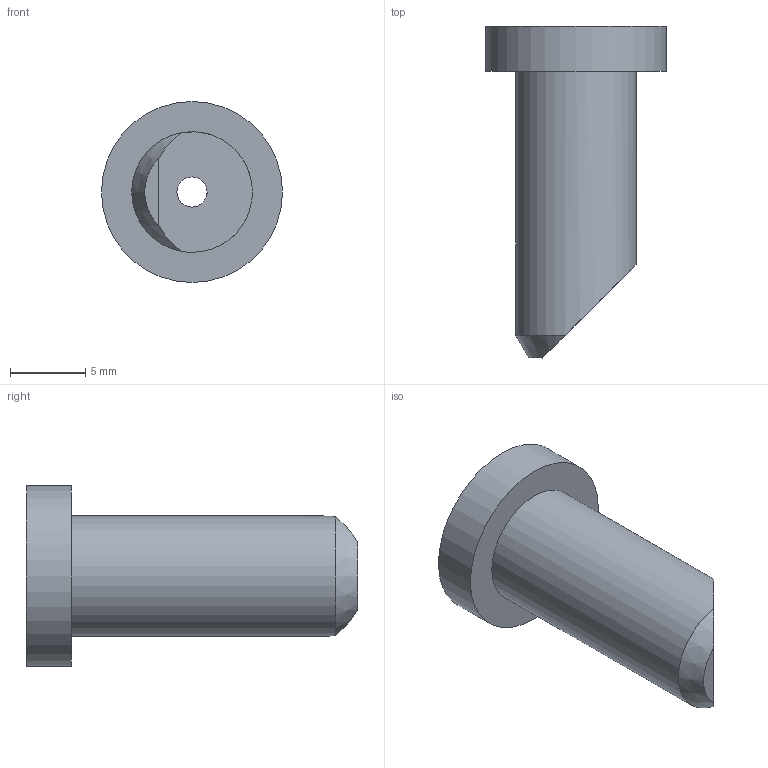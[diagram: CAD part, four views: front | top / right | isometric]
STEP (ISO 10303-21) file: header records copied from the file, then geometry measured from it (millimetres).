
FILE_DESCRIPTION(/* description */ (''),/* implementation_level */ '2;1');
FILE_NAME(/* name */ '',/* time_stamp */ '2025-02-05T13:52:35+09:00',/* author */ ('jhkim'),/* organization */ (''),/* preprocessor_version */ 'ST-DEVELOPER v20',/* originating_system */ 'Autodesk Inventor 2025',/* authorisation */ '');
FILE_SCHEMA (('AUTOMOTIVE_DESIGN { 1 0 10303 214 3 1 1 }'));
Length unit declared in the file: millimetre
Products named in the file (1): 드릴부시
Bounding box: 12 x 22 x 12 mm (x, y, z)
Volume: 1110 mm3; surface area: 878.4 mm2
Topology: 1 solids, 1 shells, 8 faces, 15 edges, 10 vertices
Faces by surface type: plane 4, cylinder 3, cone 1
Full cylindrical faces by diameter (mm): 2 x1, 8 x1, 12 x1
Entity records: 257 total; most frequent: DIRECTION 44, CARTESIAN_POINT 34, ORIENTED_EDGE 30, AXIS2_PLACEMENT_3D 20, EDGE_CURVE 15, EDGE_LOOP 11, VERTEX_POINT 10, FACE_OUTER_BOUND 8
